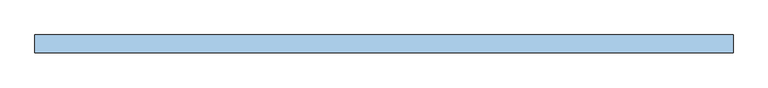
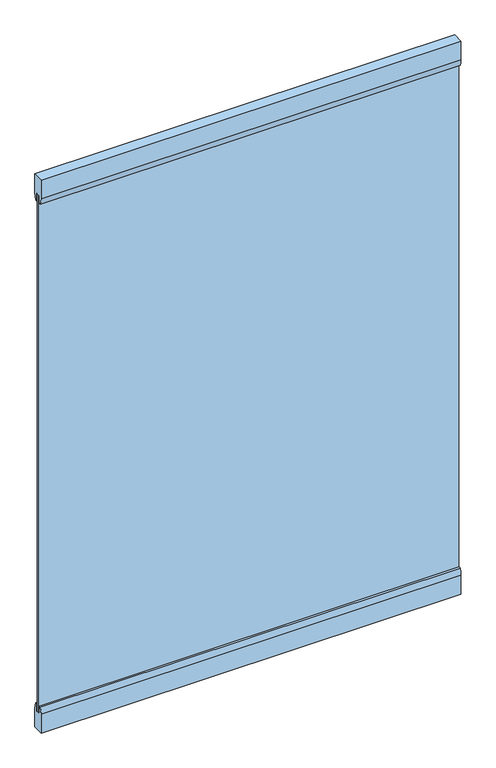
"""IFC4 building model written with IfcOpenShell, lengths in millimetres: window geometry, Herculite-fija : VL-3 - Herculite-fija 1.58 X 2.20."""

from ifc_helpers import new_model, si_unit, point, frame, frame_2d, origin, place, context, project, spatial, polyline, circle_curve, trimmed, segment, composite_curve, outline, extrude, source, transform, mapped, element, save


def window_32c6b6a5(model_context):
    return source(origin(), model_context, "Body", "SweptSolid", [
        extrude(outline(composite_curve([segment(polyline([(-7.5, 2900.0), (-15.0, 2900.0)]), True, "CONTINUOUS"), segment(trimmed(circle_curve(frame_2d((45.0, 2925.0)), 65.0), [point((-15.0, 2900.0))], [point((-20.0, 2925.0))], False, "CARTESIAN"), True, "CONTINUOUS"), segment(polyline([(-20.0, 2925.0), (-20.0, 3000.0), (20.0, 3000.0), (20.0, 2925.0)]), True, "CONTINUOUS"), segment(trimmed(circle_curve(frame_2d((-45.0, 2925.0)), 65.0), [point((20.0, 2925.0))], [point((15.0, 2900.0))], False, "CARTESIAN"), True, "CONTINUOUS"), segment(polyline([(15.0, 2900.0), (7.5, 2900.0), (7.5, 2930.0), (-7.5, 2930.0), (-7.5, 2900.0)]), True, "CONTINUOUS")], self_intersect=False)), frame((-790.0, 0.0, 0.0), z_axis=(1.0, 0.0, 0.0), x_axis=(0.0, 1.0, 0.0)), (0.0, 0.0, 1.0), 1580.0),
        extrude(outline(polyline([(-790.0, -5.5), (-790.0, 5.5), (790.0, 5.5), (790.0, -5.5), (-790.0, -5.5)])), frame((0.0, 0.0, 872.0), z_axis=(0.0, 0.0, 1.0), x_axis=(1.0, 0.0, 0.0)), (0.0, 0.0, 1.0), 2056.0),
        extrude(outline(composite_curve([segment(polyline([(-7.5, 900.0), (-7.5, 870.0), (7.5, 870.0), (7.5, 900.0), (15.0, 900.0)]), True, "CONTINUOUS"), segment(trimmed(circle_curve(frame_2d((-45.0, 875.0)), 65.0), [point((15.0, 900.0))], [point((20.0, 875.0))], False, "CARTESIAN"), True, "CONTINUOUS"), segment(polyline([(20.0, 875.0), (20.0, 800.0), (-20.0, 800.0), (-20.0, 875.0)]), True, "CONTINUOUS"), segment(trimmed(circle_curve(frame_2d((45.0, 875.0)), 65.0), [point((-20.0, 875.0))], [point((-15.0, 900.0))], False, "CARTESIAN"), True, "CONTINUOUS"), segment(polyline([(-15.0, 900.0), (-7.5, 900.0)]), True, "CONTINUOUS")], self_intersect=False)), frame((-790.0, 0.0, 0.0), z_axis=(1.0, 0.0, 0.0), x_axis=(0.0, 1.0, 0.0)), (0.0, 0.0, 1.0), 1580.0),
    ])


if __name__ == "__main__":
    model = new_model("IFC4")
    model_context = context("Model", 3, world=origin())
    ifc_project = project(units=[si_unit("LENGTHUNIT", "METRE", prefix="MILLI")], contexts=[model_context])
    site = spatial("IfcSite", under=ifc_project)
    building = spatial("IfcBuilding", under=site)
    placement = place(None, origin())
    window_shape = window_32c6b6a5(model_context)
    element("IfcWindow", 1, ObjectType="Herculite-fija : VL-3 - Herculite-fija 1.58 X 2.20", at=placement, inside=building, context=model_context, shape_type="MappedRepresentation", body=[
        mapped(window_shape, transform((0.0, 0.0, 0.0), x_axis=(1.0, 0.0, 0.0), y_axis=(0.0, 1.0, 0.0), z_axis=(0.0, 0.0, 1.0))),
    ])
    save(model, "model.ifc")
